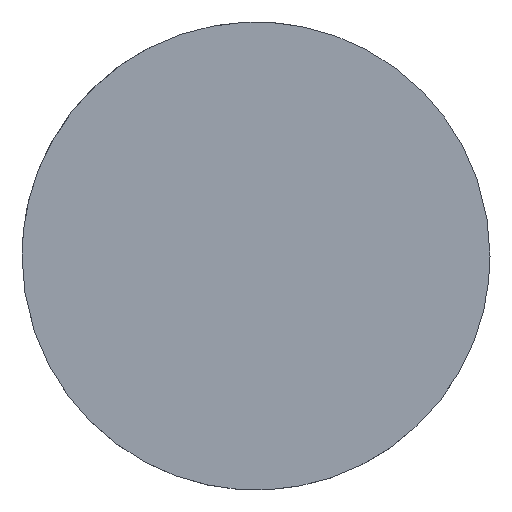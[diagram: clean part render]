
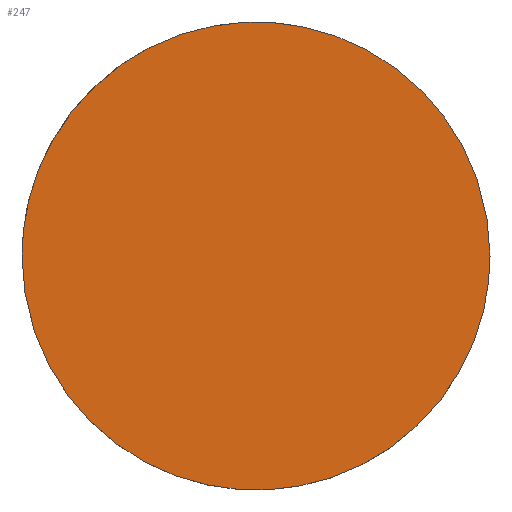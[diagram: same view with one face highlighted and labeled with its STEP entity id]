
A CAD part, top view. The second image highlights one B-rep face of the part: STEP entity #247.
In plain terms, the highlighted planar face has unit normal (0, 0, 1).
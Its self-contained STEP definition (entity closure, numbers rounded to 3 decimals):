
#19 = CARTESIAN_POINT ('', (-25., 0., -91.537));
#20 = VERTEX_POINT ('', #19);
#26 = CARTESIAN_POINT ('', (25., 0., -91.537));
#27 = VERTEX_POINT ('', #26);
#28 = CARTESIAN_POINT ('', (25., 0., -91.537));
#29 = CARTESIAN_POINT ('', (25., 25., -91.537));
#30 = CARTESIAN_POINT ('', (0., 25., -91.537));
#31 = CARTESIAN_POINT ('', (-25., 25., -91.537));
#32 = CARTESIAN_POINT ('', (-25., 0., -91.537));
#33 = (
   BOUNDED_CURVE ()
   B_SPLINE_CURVE (2, (#28, #29, #30, #31, #32), .UNSPECIFIED., .F., .U.)
   B_SPLINE_CURVE_WITH_KNOTS ((3, 2, 3), (0., 1.571, 3.142), .UNSPECIFIED.)
   CURVE ()
   GEOMETRIC_REPRESENTATION_ITEM ()
   RATIONAL_B_SPLINE_CURVE ((1., 0.707, 1., 0.707, 1.))
   REPRESENTATION_ITEM ('')
);
#34 = EDGE_CURVE ('', #27, #20, #33, .T.);
#58 = CARTESIAN_POINT ('', (-25., 0., -91.537));
#59 = CARTESIAN_POINT ('', (-25., -25., -91.537));
#60 = CARTESIAN_POINT ('', (0., -25., -91.537));
#61 = CARTESIAN_POINT ('', (25., -25., -91.537));
#62 = CARTESIAN_POINT ('', (25., 0., -91.537));
#63 = (
   BOUNDED_CURVE ()
   B_SPLINE_CURVE (2, (#58, #59, #60, #61, #62), .UNSPECIFIED., .F., .U.)
   B_SPLINE_CURVE_WITH_KNOTS ((3, 2, 3), (3.142, 4.712, 6.283), .UNSPECIFIED.)
   CURVE ()
   GEOMETRIC_REPRESENTATION_ITEM ()
   RATIONAL_B_SPLINE_CURVE ((1., 0.707, 1., 0.707, 1.))
   REPRESENTATION_ITEM ('')
);
#64 = EDGE_CURVE ('', #20, #27, #63, .T.);
#238 = ORIENTED_EDGE ('', *, *, #34, .T.);
#239 = ORIENTED_EDGE ('', *, *, #64, .T.);
#240 = EDGE_LOOP ('', (#238, #239));
#241 = FACE_OUTER_BOUND ('', #240, .T.);
#242 = CARTESIAN_POINT ('', (0., 51.204, -91.537));
#243 = DIRECTION ('', (0., 0., 1.));
#244 = DIRECTION ('', (-0.707, -0.707, 0.));
#245 = AXIS2_PLACEMENT_3D ('', #242, #243, #244);
#246 = PLANE ('', #245);
#247 = ADVANCED_FACE ('', (#241), #246, .T.);
